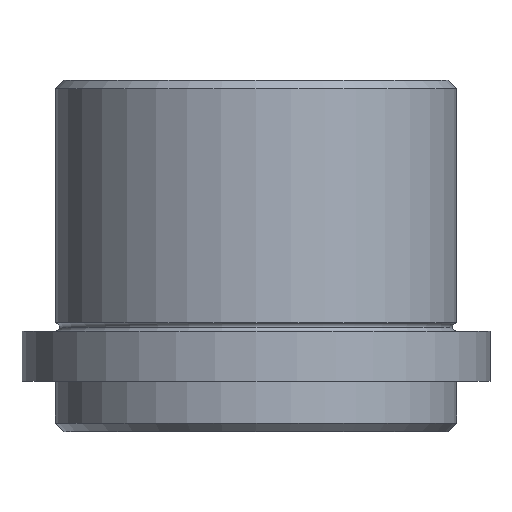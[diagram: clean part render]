
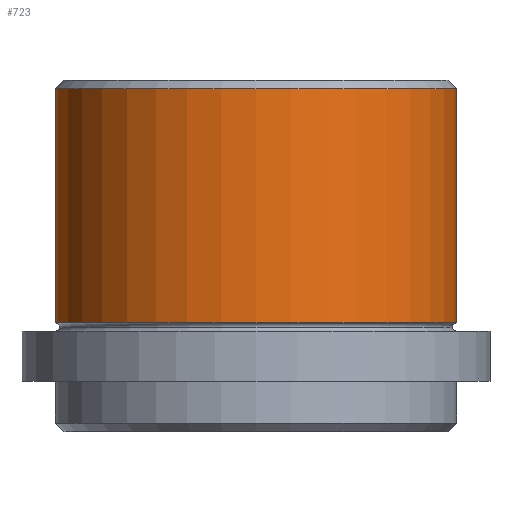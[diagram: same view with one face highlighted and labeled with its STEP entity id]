
A CAD part, front view. The second image highlights one B-rep face of the part: STEP entity #723.
In plain terms, the highlighted cylindrical face has radius 24 mm (diameter 48 mm), a partial arc.
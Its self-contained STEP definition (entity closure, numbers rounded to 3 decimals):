
#10 = AXIS2_PLACEMENT_3D ( 'NONE', #544, #527, #619 ) ;
#26 = EDGE_CURVE ( 'NONE', #632, #385, #716, .T. ) ;
#27 = DIRECTION ( 'NONE',  ( 1., 0., 0. ) ) ;
#64 = EDGE_CURVE ( 'NONE', #632, #778, #299, .T. ) ;
#87 = CARTESIAN_POINT ( 'NONE',  ( 24., 0., -29. ) ) ;
#113 = CYLINDRICAL_SURFACE ( 'NONE', #287, 24. ) ;
#134 = CARTESIAN_POINT ( 'NONE',  ( -24., 0., 0. ) ) ;
#154 = DIRECTION ( 'NONE',  ( 0., 0., 1. ) ) ;
#206 = EDGE_CURVE ( 'NONE', #879, #778, #366, .T. ) ;
#287 = AXIS2_PLACEMENT_3D ( 'NONE', #756, #673, #27 ) ;
#288 = VECTOR ( 'NONE', #154, 1000. ) ;
#293 = ORIENTED_EDGE ( 'NONE', *, *, #206, .T. ) ;
#299 = LINE ( 'NONE', #134, #288 ) ;
#366 = CIRCLE ( 'NONE', #540, 24. ) ;
#385 = VERTEX_POINT ( 'NONE', #87 ) ;
#482 = ORIENTED_EDGE ( 'NONE', *, *, #849, .T. ) ;
#527 = DIRECTION ( 'NONE',  ( 0., 0., 1. ) ) ;
#540 = AXIS2_PLACEMENT_3D ( 'NONE', #541, #542, #546 ) ;
#541 = CARTESIAN_POINT ( 'NONE',  ( 0., 0., -1. ) ) ;
#542 = DIRECTION ( 'NONE',  ( 0., 0., -1. ) ) ;
#544 = CARTESIAN_POINT ( 'NONE',  ( 0., 0., -29. ) ) ;
#546 = DIRECTION ( 'NONE',  ( -1., 0., 0. ) ) ;
#616 = ORIENTED_EDGE ( 'NONE', *, *, #26, .T. ) ;
#619 = DIRECTION ( 'NONE',  ( 1., 0., 0. ) ) ;
#632 = VERTEX_POINT ( 'NONE', #866 ) ;
#673 = DIRECTION ( 'NONE',  ( 0., 0., 1. ) ) ;
#698 = FACE_OUTER_BOUND ( 'NONE', #792, .T. ) ;
#699 = CARTESIAN_POINT ( 'NONE',  ( 24., 0., 0. ) ) ;
#707 = DIRECTION ( 'NONE',  ( 0., 0., 1. ) ) ;
#708 = LINE ( 'NONE', #699, #846 ) ;
#716 = CIRCLE ( 'NONE', #10, 24. ) ;
#723 = ADVANCED_FACE ( 'NONE', ( #698 ), #113, .T. ) ;
#734 = CARTESIAN_POINT ( 'NONE',  ( -24., 0., -1. ) ) ;
#756 = CARTESIAN_POINT ( 'NONE',  ( 0., 0., 0. ) ) ;
#766 = ORIENTED_EDGE ( 'NONE', *, *, #64, .F. ) ;
#778 = VERTEX_POINT ( 'NONE', #734 ) ;
#787 = CARTESIAN_POINT ( 'NONE',  ( 24., 0., -1. ) ) ;
#792 = EDGE_LOOP ( 'NONE', ( #766, #616, #482, #293 ) ) ;
#846 = VECTOR ( 'NONE', #707, 1000. ) ;
#849 = EDGE_CURVE ( 'NONE', #385, #879, #708, .T. ) ;
#866 = CARTESIAN_POINT ( 'NONE',  ( -24., 0., -29. ) ) ;
#879 = VERTEX_POINT ( 'NONE', #787 ) ;
